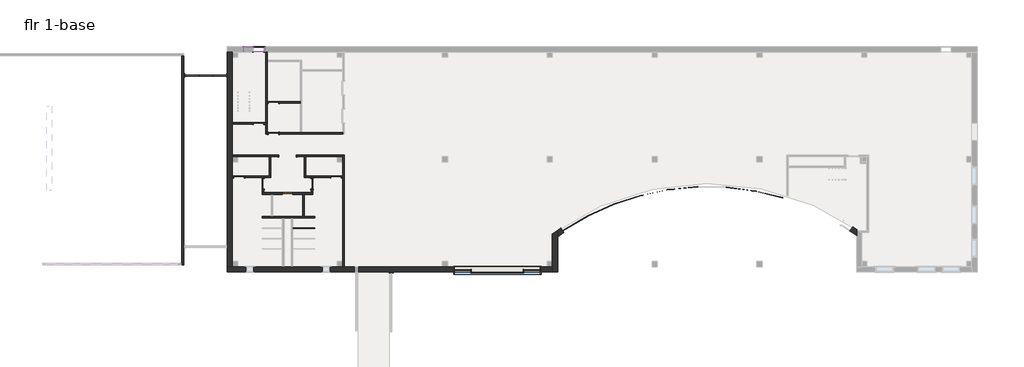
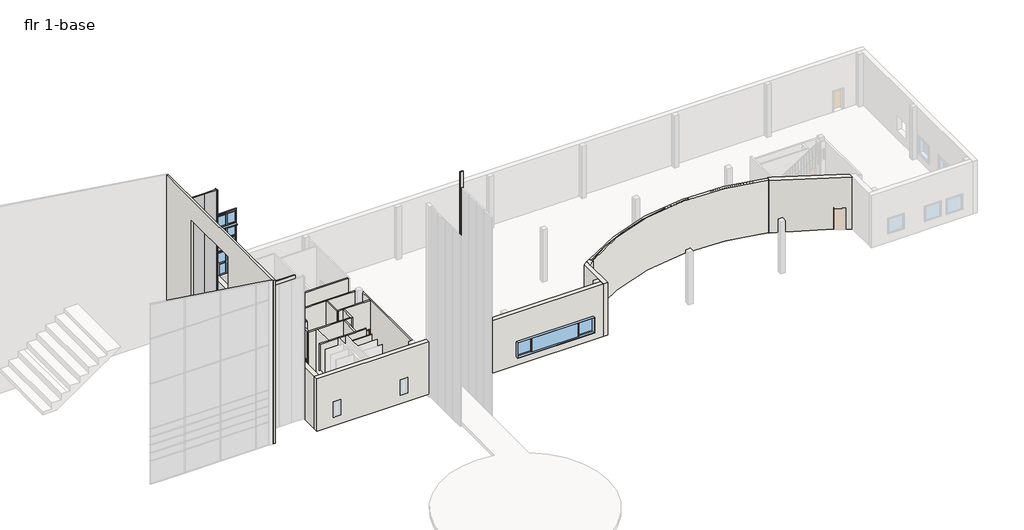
# One storey, part 4 of 5: 26 walls, 10 doors, 10 plates, 2 windows.
"""IFC4 building model written with IfcOpenShell, lengths in millimetres."""

from ifc_helpers import new_model, si_unit, point, frame, frame_2d, origin, origin_with_axes, place, context, project, spatial, polyline, circle_curve, trimmed, segment, composite_curve, outline, extrude, faceted_brep, transform, mapped, element, save
from ifc_brep_helpers import plane_surface, cylinder_surface, revolved_surface, advanced_brep
from components import door_df85aeb6, door_506e7aec, door_c6edcd30, door_9814c99b, glazed_panel_glazed_panel_a34ef34b, system_panel_system_panel_165921ea, fixed_25_x5_r1_fixed_25_x5_r1_81c53d64, window_5lite_268f9a0f

model = new_model("IFC4")

# Units and contexts
model_context = context("Model", 3, world=origin())
ifc_project = project(units=[si_unit("LENGTHUNIT", "METRE", prefix="MILLI")], contexts=[model_context])

# Site, building, storey
site = spatial("IfcSite", under=ifc_project)
building = spatial("IfcBuilding", under=site)
storey = spatial("IfcBuildingStorey", under=building, Name="flr 1-base", Elevation=0.0)

# Doors
placement = place(None, origin())
door_shape = door_df85aeb6(model_context)
element("IfcDoor", 1, ObjectType="Cased Opening : 60\" x 84\"", at=placement, inside=storey, context=model_context, shape_type="MappedRepresentation", body=[
    mapped(door_shape, transform((-110751.290902, 34756.8571029, 0.0), x_axis=(-1.0, 0.0, 0.0), y_axis=(0.0, -1.0, 0.0), z_axis=(0.0, 0.0, 1.0))),
])
door_2_shape = door_506e7aec(model_context)
element("IfcDoor", 2, ObjectType="Sgl Flush : 36\" x 84\"", at=placement, inside=storey, context=model_context, shape_type="MappedRepresentation", body=[
    mapped(door_2_shape, transform((-113265.890902, 44059.6071029, 0.0), x_axis=(1.0, 0.0, 0.0), y_axis=(0.0, 1.0, 0.0), z_axis=(0.0, 0.0, 1.0))),
])
door_3_shape = door_c6edcd30(model_context)
element("IfcDoor", 3, ObjectType="Sgl Flush : 36\" x 84\"", at=placement, inside=storey, context=model_context, shape_type="MappedRepresentation", body=[
    mapped(door_3_shape, transform((-113272.240902, 37588.9571029, 0.0), x_axis=(1.0, 0.0, 0.0), y_axis=(0.0, 1.0, 0.0), z_axis=(0.0, 0.0, 1.0))),
])
element("IfcDoor", 4, ObjectType="Sgl Flush : 36\" x 84\"", at=placement, inside=storey, context=model_context, shape_type="MappedRepresentation", body=[
    mapped(door_3_shape, transform((-112884.890902, 32318.4571029, 0.0), x_axis=(0.0, 1.0, 0.0), y_axis=(-1.0, 0.0, 0.0), z_axis=(0.0, 0.0, 1.0))),
])
element("IfcDoor", 5, ObjectType="Sgl Flush : 36\" x 84\"", at=placement, inside=storey, context=model_context, shape_type="MappedRepresentation", body=[
    mapped(door_3_shape, transform((-106515.840902, 32928.0571029, 0.0), x_axis=(1.0, 0.0, 0.0), y_axis=(0.0, 1.0, 0.0), z_axis=(0.0, 0.0, 1.0))),
])
element("IfcDoor", 6, ObjectType="Sgl Flush : 36\" x 84\"", at=placement, inside=storey, context=model_context, shape_type="MappedRepresentation", body=[
    mapped(door_3_shape, transform((-110751.290902, 31480.2571029, 0.0), x_axis=(1.0, 0.0, 0.0), y_axis=(0.0, 1.0, 0.0), z_axis=(0.0, 0.0, 1.0))),
])
door_4_shape = door_9814c99b(model_context)
element("IfcDoor", 7, ObjectType="Sgl Flush : 36\" x 84\"", at=placement, inside=storey, context=model_context, shape_type="MappedRepresentation", body=[
    mapped(door_4_shape, transform((-111970.490902, 36725.3571029, 0.0), x_axis=(-1.0, 0.0, 0.0), y_axis=(0.0, -1.0, 0.0), z_axis=(0.0, 0.0, 1.0))),
])
element("IfcDoor", 8, ObjectType="Sgl Flush : 36\" x 84\"", at=placement, inside=storey, context=model_context, shape_type="MappedRepresentation", body=[
    mapped(door_4_shape, transform((-111970.490902, 39417.7571029, 0.0), x_axis=(-1.0, 0.0, 0.0), y_axis=(0.0, -1.0, 0.0), z_axis=(0.0, 0.0, 1.0))),
])
element("IfcDoor", 9, ObjectType="Sgl Flush : 36\" x 84\"", at=placement, inside=storey, context=model_context, shape_type="MappedRepresentation", body=[
    mapped(door_4_shape, transform((-108617.690902, 32324.8071029, 0.0), x_axis=(0.0, 1.0, 0.0), y_axis=(-1.0, 0.0, 0.0), z_axis=(0.0, 0.0, 1.0))),
])
element("IfcDoor", 10, ObjectType="Sgl Flush : 36\" x 84\"", at=placement, inside=storey, context=model_context, shape_type="MappedRepresentation", body=[
    mapped(door_4_shape, transform((-114968.0703209, 32928.0571029, 0.0), x_axis=(-1.0, 0.0, 0.0), y_axis=(0.0, -1.0, 0.0), z_axis=(0.0, 0.0, 1.0))),
])

# Plates
glazed_panel_glazed_panel_shape = glazed_panel_glazed_panel_a34ef34b(model_context)
element("IfcPlate", 11, ObjectType="Glazed Panel : Glazed Panel", at=placement, inside=storey, context=model_context, shape_type="MappedRepresentation", body=[
    mapped(glazed_panel_glazed_panel_shape, transform((-68776.6241415, 31459.5980286, 0.0), x_axis=(-0.972196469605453, 0.23416665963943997, 0.0), y_axis=(-0.23416665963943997, -0.972196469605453, 0.0), z_axis=(0.0, 0.0, 1.0))),
])
element("IfcPlate", 12, ObjectType="Glazed Panel : Glazed Panel", at=placement, inside=storey, context=model_context, shape_type="MappedRepresentation", body=[
    mapped(glazed_panel_glazed_panel_shape, transform((-78724.5971167, 31617.1090647, 0.0), x_axis=(-0.9791226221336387, -0.20327048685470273, 0.0), y_axis=(0.20327048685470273, -0.9791226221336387, 0.0), z_axis=(0.0, 0.0, 1.0))),
])
element("IfcPlate", 13, ObjectType="Glazed Panel : Glazed Panel", at=placement, inside=storey, context=model_context, shape_type="MappedRepresentation", body=[
    mapped(glazed_panel_glazed_panel_shape, transform((-71241.8887951, 31911.3319638, 0.0), x_axis=(-0.992060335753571, 0.12576283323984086, 0.0), y_axis=(-0.12576283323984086, -0.992060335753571, 0.0), z_axis=(0.0, 0.0, 1.0))),
])
element("IfcPlate", 14, ObjectType="Glazed Panel : Glazed Panel", at=placement, inside=storey, context=model_context, shape_type="MappedRepresentation", body=[
    mapped(glazed_panel_glazed_panel_shape, transform((-76246.266777, 31990.568685, 0.0), x_axis=(-0.9955445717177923, -0.09429212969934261, 0.0), y_axis=(0.09429212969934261, -0.9955445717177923, 0.0), z_axis=(0.0, 0.0, 1.0))),
])
element("IfcPlate", 15, ObjectType="Glazed Panel : Glazed Panel", at=placement, inside=storey, context=model_context, shape_type="MappedRepresentation", body=[
    mapped(glazed_panel_glazed_panel_shape, transform((-83483.3975677, 30066.6589008, 0.0), x_axis=(-0.9109454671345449, -0.41252679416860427, 0.0), y_axis=(0.41252679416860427, -0.9109454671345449, 0.0), z_axis=(0.0, 0.0, 1.0))),
])
element("IfcPlate", 16, ObjectType="Glazed Panel : Glazed Panel", at=placement, inside=storey, context=model_context, shape_type="MappedRepresentation", body=[
    mapped(glazed_panel_glazed_panel_shape, transform((-85706.067466, 28908.5000673, 0.0), x_axis=(-0.8600183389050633, -0.5102631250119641, 0.0), y_axis=(0.5102631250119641, -0.8600183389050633, 0.0), z_axis=(0.0, 0.0, 1.0))),
])
element("IfcPlate", 17, ObjectType="Glazed Panel : Glazed Panel", at=placement, inside=storey, context=model_context, shape_type="MappedRepresentation", body=[
    mapped(glazed_panel_glazed_panel_shape, transform((-81146.7806305, 30973.1988334, 0.0), x_axis=(-0.9508082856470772, -0.3097799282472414, 0.0), y_axis=(0.3097799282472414, -0.9508082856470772, 0.0), z_axis=(0.0, 0.0, 1.0))),
])
system_panel_system_panel_shape = system_panel_system_panel_165921ea(model_context)
element("IfcPlate", 18, ObjectType="System Panel : System Panel", at=placement, inside=storey, context=model_context, shape_type="MappedRepresentation", body=[
    mapped(system_panel_system_panel_shape, transform((-116669.8070844, 41773.6071029, 0.0), x_axis=(-1.0, 0.0, 0.0), y_axis=(0.0, -1.0, 0.0), z_axis=(0.0, 0.0, 1.0))),
])
element("IfcPlate", 19, ObjectType="System Panel : System Panel", at=placement, inside=storey, context=model_context, shape_type="MappedRepresentation", body=[
    mapped(system_panel_system_panel_shape, transform((-119107.9541385, 41773.6071029, 0.0), x_axis=(-1.0, 0.0, 0.0), y_axis=(0.0, -1.0, 0.0), z_axis=(0.0, 0.0, 1.0))),
])
element("IfcPlate", 20, ObjectType="System Panel : System Panel", at=placement, inside=storey, context=model_context, shape_type="MappedRepresentation", body=[
    mapped(system_panel_system_panel_shape, transform((-117888.8806115, 41773.6071029, 0.0), x_axis=(-1.0, 0.0, 0.0), y_axis=(0.0, -1.0, 0.0), z_axis=(0.0, 0.0, 1.0))),
])

# Walls
element("IfcWall", 21, ObjectType="Curtain Wall 1", at=placement, inside=storey, context=model_context, shape_type="SweptSolid", body=[
    extrude(outline(composite_curve([segment(polyline([(-86700.5757583, 28141.5055478), (-86870.3123535, 28394.6705696)]), True, "CONTINUOUS"), segment(trimmed(circle_curve(frame_2d((-74101.9231483, 9350.4006647)), 22928.4970965), [point((-86870.3123535, 28394.6705696))], [point((-67512.65982, 31311.6753976))], False, "CARTESIAN"), True, "CONTINUOUS"), segment(polyline([(-67512.65982, 31311.6753976), (-67600.2541989, 31019.7331691)]), True, "CONTINUOUS"), segment(trimmed(circle_curve(frame_2d((-74101.9231483, 9350.4006647)), 22623.6970965), [point((-67600.2541989, 31019.7331691))], [point((-86700.5757583, 28141.5055478))], True, "CARTESIAN"), True, "CONTINUOUS")], self_intersect=False)), origin_with_axes(), (0.0, 0.0, 1.0), 5486.4),
])
element("IfcWall", 22, ObjectType="Generic - 8\"", at=placement, inside=storey, context=model_context, shape_type="Brep", body=[
    faceted_brep([(-119793.690902, 25238.2071029, -304.8), (-119793.690902, 43526.2071029, -304.8), (-119793.690902, 43526.2071029, 16771.9087089), (-119793.690902, 25238.2071029, 16771.9087089), (-119793.690902, 32967.6248096, 14630.4), (-119793.690902, 39232.8859146, 14630.4), (-119793.690902, 39232.8859146, 5181.6), (-119793.690902, 32967.6248096, 5181.6), (-119996.890902, 25238.2071029, -304.8), (-119996.890902, 25238.2071029, 16801.6826719), (-119996.890902, 25390.6071029, 16801.6826719), (-119996.890902, 43526.2071029, 16801.6826719), (-119996.890902, 43526.2071029, -304.8), (-119996.890902, 25390.6071029, -304.8), (-119996.890902, 32967.6248096, 14630.4), (-119996.890902, 32967.6248096, 5181.6), (-119996.890902, 39232.8859146, 5181.6), (-119996.890902, 39232.8859146, 14630.4)], [[[0, 1, 2, 3], [4, 5, 6, 7]], [[8, 9, 10, 11, 12, 13], [14, 15, 16, 17]], [[1, 0, 8, 13, 12]], [[5, 4, 14, 17]], [[6, 5, 17, 16]], [[7, 6, 16, 15]], [[4, 7, 15, 14]], [[0, 3, 9, 8]], [[2, 1, 12, 11]], [[3, 2, 11, 10, 9]]]),
])
element("IfcWall", 23, ObjectType="Interior - 5 1/2\" Partition (1-hr)", at=placement, inside=storey, context=model_context, shape_type="Brep", body=[
    faceted_brep([(-105810.990902, 25084.2196029, 0.0), (-105810.990902, 34826.7071029, 0.0), (-105810.990902, 34826.7071029, 5181.6), (-105810.990902, 25084.2196029, 5181.6), (-105950.690902, 25084.2196029, 0.0), (-105950.690902, 25084.2196029, 5181.6), (-105950.690902, 32858.2071029, 5181.6), (-105950.690902, 32997.9071029, 5181.6), (-105950.690902, 34687.0071029, 5181.6), (-105950.690902, 34826.7071029, 5181.6), (-105950.690902, 34826.7071029, 0.0), (-105950.690902, 34687.0071029, 0.0), (-105950.690902, 32997.9071029, 0.0), (-105950.690902, 32858.2071029, 0.0)], [[[0, 1, 2, 3]], [[4, 5, 6, 7, 8, 9, 10, 11, 12, 13]], [[1, 0, 4, 13, 12, 11, 10]], [[2, 1, 10, 9]], [[0, 3, 5, 4]], [[3, 2, 9, 8, 7, 6, 5]]]),
])
element("IfcWall", 24, ObjectType="Interior - 5 1/2\" Partition (1-hr)", at=placement, inside=storey, context=model_context, shape_type="Brep", body=[
    faceted_brep([(-111513.290902, 34826.7071029, 2133.6), (-111513.290902, 34826.7071029, 0.0), (-115553.8578209, 34826.7071029, 0.0), (-115553.8578209, 34826.7071029, 5181.6), (-105950.690902, 34826.7071029, 5181.6), (-105950.690902, 34826.7071029, 0.0), (-109989.290902, 34826.7071029, 0.0), (-109989.290902, 34826.7071029, 2133.6), (-115553.8578209, 34687.0071029, 0.0), (-112345.140902, 34687.0071029, 0.0), (-112205.440902, 34687.0071029, 0.0), (-111513.290902, 34687.0071029, 0.0), (-111513.290902, 34687.0071029, 2133.6), (-109989.290902, 34687.0071029, 2133.6), (-109989.290902, 34687.0071029, 0.0), (-109297.140902, 34687.0071029, 0.0), (-109157.440902, 34687.0071029, 0.0), (-105950.690902, 34687.0071029, 0.0), (-105950.690902, 34687.0071029, 5181.6), (-109157.440902, 34687.0071029, 5181.6), (-109297.140902, 34687.0071029, 5181.6), (-112205.440902, 34687.0071029, 5181.6), (-112345.140902, 34687.0071029, 5181.6), (-115553.8578209, 34687.0071029, 5181.6)], [[[0, 1, 2, 3, 4, 5, 6, 7]], [[8, 9, 10, 11, 12, 13, 14, 15, 16, 17, 18, 19, 20, 21, 22, 23]], [[2, 1, 11, 10, 9, 8]], [[6, 5, 17, 16, 15, 14]], [[5, 4, 18, 17]], [[3, 2, 8, 23]], [[4, 3, 23, 22, 21, 20, 19, 18]], [[12, 11, 1, 0]], [[13, 12, 0, 7]], [[14, 13, 7, 6]]]),
])
element("IfcWall", 25, ObjectType="Interior - 5 1/2\" Partition (1-hr)", at=placement, inside=storey, context=model_context, shape_type="Brep", body=[
    faceted_brep([(-112427.690902, 36795.2071029, 2133.6), (-112427.690902, 36795.2071029, 0.0), (-112510.240902, 36795.2071029, 0.0), (-112649.940902, 36795.2071029, 0.0), (-112649.940902, 36795.2071029, 5181.6), (-112510.240902, 36795.2071029, 5181.6), (-109633.690902, 36795.2071029, 5181.6), (-109493.990902, 36795.2071029, 5181.6), (-105950.690902, 36795.2071029, 5181.6), (-105950.690902, 36795.2071029, 0.0), (-109493.990902, 36795.2071029, 0.0), (-109633.690902, 36795.2071029, 0.0), (-111513.290902, 36795.2071029, 0.0), (-111513.290902, 36795.2071029, 2133.6), (-112649.940902, 36655.5071029, 0.0), (-112427.690902, 36655.5071029, 0.0), (-112427.690902, 36655.5071029, 2133.6), (-111513.290902, 36655.5071029, 2133.6), (-111513.290902, 36655.5071029, 0.0), (-105950.690902, 36655.5071029, 0.0), (-105950.690902, 36655.5071029, 5181.6), (-112649.940902, 36655.5071029, 5181.6)], [[[0, 1, 2, 3, 4, 5, 6, 7, 8, 9, 10, 11, 12, 13]], [[14, 15, 16, 17, 18, 19, 20, 21]], [[3, 2, 1, 15, 14]], [[12, 11, 10, 9, 19, 18]], [[4, 3, 14, 21]], [[9, 8, 20, 19]], [[8, 7, 6, 5, 4, 21, 20]], [[16, 15, 1, 0]], [[17, 16, 0, 13]], [[18, 17, 13, 12]]]),
])
element("IfcWall", 26, ObjectType="Interior - 5 1/2\" Partition (1-hr)", at=placement, inside=storey, context=model_context, shape_type="Brep", body=[
    faceted_brep([(-112510.240902, 36795.2071029, 0.0), (-112510.240902, 39347.9071029, 0.0), (-112510.240902, 39487.6071029, 0.0), (-112510.240902, 42980.1071029, 0.0), (-112510.240902, 43119.8071029, 0.0), (-112510.240902, 43832.5946029, 0.0), (-112510.240902, 43832.5946029, 5181.6), (-112510.240902, 43119.8071029, 5181.6), (-112510.240902, 42980.1071029, 5181.6), (-112510.240902, 39487.6071029, 5181.6), (-112510.240902, 39347.9071029, 5181.6), (-112510.240902, 36795.2071029, 5181.6), (-112649.940902, 36795.2071029, 0.0), (-112649.940902, 36795.2071029, 5181.6), (-112649.940902, 37519.1071029, 5181.6), (-112649.940902, 37658.8071029, 5181.6), (-112649.940902, 39436.8071029, 5181.6), (-112649.940902, 43119.8071029, 5181.6), (-112649.940902, 43832.5946029, 5181.6), (-112649.940902, 43832.5946029, 0.0), (-112649.940902, 37658.8071029, 0.0), (-112649.940902, 37519.1071029, 0.0)], [[[0, 1, 2, 3, 4, 5, 6, 7, 8, 9, 10, 11]], [[12, 13, 14, 15, 16, 17, 18, 19, 20, 21]], [[5, 4, 3, 2, 1, 0, 12, 21, 20, 19]], [[0, 11, 13, 12]], [[6, 5, 19, 18]], [[7, 6, 18, 17]], [[11, 10, 9, 8, 7, 17, 16, 15, 14, 13]]]),
])
element("IfcWall", 27, ObjectType="Interior - 5 1/2\" Partition (1-hr)", at=placement, inside=storey, context=model_context, shape_type="SweptSolid", body=[
    extrude(outline(polyline([(2133.6, -112815.040902), (0.0, -112815.040902), (0.0, -112649.940902), (5181.6, -112649.940902), (5181.6, -115553.8578209), (0.0, -115553.8578209), (0.0, -113729.440902), (2133.6, -113729.440902), (2133.6, -112815.040902)])), frame((0.0, 37519.1071029, 0.0), z_axis=(0.0, 1.0, 0.0), x_axis=(0.0, 0.0, 1.0)), (0.0, 0.0, 1.0), 139.7),
])
element("IfcWall", 28, ObjectType="Interior - 5 1/2\" Partition (1-hr)", at=placement, inside=storey, context=model_context, shape_type="SweptSolid", body=[
    extrude(outline(polyline([(0.0, -112510.240902), (0.0, -112427.690902), (2133.6, -112427.690902), (2133.6, -111513.290902), (0.0, -111513.290902), (0.0, -109633.690902), (5181.6, -109633.690902), (5181.6, -112510.240902), (0.0, -112510.240902)])), frame((0.0, 39347.9071029, 0.0), z_axis=(0.0, 1.0, 0.0), x_axis=(0.0, 0.0, 1.0)), (0.0, 0.0, 1.0), 139.7),
])
element("IfcWall", 29, ObjectType="Interior - 5 1/2\" Partition (1-hr)", at=placement, inside=storey, context=model_context, shape_type="Brep", body=[
    faceted_brep([(-109297.140902, 34687.0071029, 0.0), (-109297.140902, 32858.2071029, 0.0), (-109297.140902, 32858.2071029, 5181.6), (-109297.140902, 34687.0071029, 5181.6), (-109157.440902, 34687.0071029, 0.0), (-109157.440902, 34687.0071029, 5181.6), (-109157.440902, 32997.9071029, 5181.6), (-109157.440902, 32858.2071029, 5181.6), (-109157.440902, 32858.2071029, 0.0), (-109157.440902, 32997.9071029, 0.0)], [[[0, 1, 2, 3]], [[4, 5, 6, 7, 8, 9]], [[1, 0, 4, 9, 8]], [[2, 1, 8, 7]], [[0, 3, 5, 4]], [[3, 2, 7, 6, 5]]]),
])
element("IfcWall", 30, ObjectType="Interior - 5 1/2\" Partition (1-hr)", at=placement, inside=storey, context=model_context, shape_type="Brep", body=[
    faceted_brep([(-106058.640902, 32858.2071029, 2133.6), (-106058.640902, 32858.2071029, 0.0), (-105950.690902, 32858.2071029, 0.0), (-105950.690902, 32858.2071029, 5181.6), (-108547.840902, 32858.2071029, 5181.6), (-108687.540902, 32858.2071029, 5181.6), (-109157.440902, 32858.2071029, 5181.6), (-109157.440902, 32858.2071029, 0.0), (-108687.540902, 32858.2071029, 0.0), (-108547.840902, 32858.2071029, 0.0), (-106973.040902, 32858.2071029, 0.0), (-106973.040902, 32858.2071029, 2133.6), (-105950.690902, 32997.9071029, 0.0), (-106058.640902, 32997.9071029, 0.0), (-106058.640902, 32997.9071029, 2133.6), (-106973.040902, 32997.9071029, 2133.6), (-106973.040902, 32997.9071029, 0.0), (-109157.440902, 32997.9071029, 0.0), (-109157.440902, 32997.9071029, 5181.6), (-105950.690902, 32997.9071029, 5181.6)], [[[0, 1, 2, 3, 4, 5, 6, 7, 8, 9, 10, 11]], [[12, 13, 14, 15, 16, 17, 18, 19]], [[2, 1, 13, 12]], [[10, 9, 8, 7, 17, 16]], [[7, 6, 18, 17]], [[3, 2, 12, 19]], [[6, 5, 4, 3, 19, 18]], [[14, 13, 1, 0]], [[15, 14, 0, 11]], [[16, 15, 11, 10]]]),
])
element("IfcWall", 31, ObjectType="Interior - 5 1/2\" Partition (1-hr)", at=placement, inside=storey, context=model_context, shape_type="Brep", body=[
    faceted_brep([(-115553.8578209, 32858.2071029, 0.0), (-115425.2703209, 32858.2071029, 0.0), (-115425.2703209, 32858.2071029, 2133.6), (-114510.8703209, 32858.2071029, 2133.6), (-114510.8703209, 32858.2071029, 0.0), (-112954.740902, 32858.2071029, 0.0), (-112815.040902, 32858.2071029, 0.0), (-112205.440902, 32858.2071029, 0.0), (-112205.440902, 32858.2071029, 5181.6), (-112815.040902, 32858.2071029, 5181.6), (-112954.740902, 32858.2071029, 5181.6), (-115553.8578209, 32858.2071029, 5181.6), (-115425.2703209, 32997.9071029, 2133.6), (-115425.2703209, 32997.9071029, 0.0), (-115553.8578209, 32997.9071029, 0.0), (-115553.8578209, 32997.9071029, 5181.6), (-112345.140902, 32997.9071029, 5181.6), (-112205.440902, 32997.9071029, 5181.6), (-112205.440902, 32997.9071029, 0.0), (-112345.140902, 32997.9071029, 0.0), (-114510.8703209, 32997.9071029, 0.0), (-114510.8703209, 32997.9071029, 2133.6)], [[[0, 1, 2, 3, 4, 5, 6, 7, 8, 9, 10, 11]], [[12, 13, 14, 15, 16, 17, 18, 19, 20, 21]], [[14, 13, 1, 0]], [[20, 19, 18, 7, 6, 5, 4]], [[8, 7, 18, 17]], [[0, 11, 15, 14]], [[11, 10, 9, 8, 17, 16, 15]], [[2, 1, 13, 12]], [[3, 2, 12, 21]], [[4, 3, 21, 20]]]),
])
element("IfcWall", 32, ObjectType="Interior - 5 1/2\" Partition (1-hr)", at=placement, inside=storey, context=model_context, shape_type="SweptSolid", body=[
    extrude(outline(polyline([(-112205.440902, 34687.0071029), (-112205.440902, 32997.9071029), (-112345.140902, 32997.9071029), (-112345.140902, 34687.0071029), (-112205.440902, 34687.0071029)])), origin_with_axes(), (0.0, 0.0, 1.0), 5181.6),
])
element("IfcWall", 33, ObjectType="Interior - 5 1/2\" Partition (1-hr)", at=placement, inside=storey, context=model_context, shape_type="Brep", body=[
    faceted_brep([(-108687.540902, 32858.2071029, 0.0), (-108687.540902, 32782.0071029, 0.0), (-108687.540902, 32782.0071029, 2133.6), (-108687.540902, 31867.6071029, 2133.6), (-108687.540902, 31867.6071029, 0.0), (-108687.540902, 31550.1071029, 0.0), (-108687.540902, 31410.4071029, 0.0), (-108687.540902, 31410.4071029, 5181.6), (-108687.540902, 31550.1071029, 5181.6), (-108687.540902, 32858.2071029, 5181.6), (-108547.840902, 32782.0071029, 2133.6), (-108547.840902, 32782.0071029, 0.0), (-108547.840902, 32858.2071029, 0.0), (-108547.840902, 32858.2071029, 5181.6), (-108547.840902, 31410.4071029, 5181.6), (-108547.840902, 31410.4071029, 0.0), (-108547.840902, 31867.6071029, 0.0), (-108547.840902, 31867.6071029, 2133.6)], [[[0, 1, 2, 3, 4, 5, 6, 7, 8, 9]], [[10, 11, 12, 13, 14, 15, 16, 17]], [[12, 11, 1, 0]], [[16, 15, 6, 5, 4]], [[7, 6, 15, 14]], [[0, 9, 13, 12]], [[9, 8, 7, 14, 13]], [[2, 1, 11, 10]], [[3, 2, 10, 17]], [[4, 3, 17, 16]]]),
])
element("IfcWall", 34, ObjectType="Interior - 5 1/2\" Partition (1-hr)", at=placement, inside=storey, context=model_context, shape_type="Brep", body=[
    faceted_brep([(-108687.540902, 31550.1071029, 0.0), (-110294.090902, 31550.1071029, 0.0), (-110294.090902, 31550.1071029, 2133.6), (-111208.490902, 31550.1071029, 2133.6), (-111208.490902, 31550.1071029, 0.0), (-112815.040902, 31550.1071029, 0.0), (-112954.740902, 31550.1071029, 0.0), (-112954.740902, 31550.1071029, 5181.6), (-112815.040902, 31550.1071029, 5181.6), (-108687.540902, 31550.1071029, 5181.6), (-110294.090902, 31410.4071029, 2133.6), (-110294.090902, 31410.4071029, 0.0), (-109449.540902, 31410.4071029, 0.0), (-109309.840902, 31410.4071029, 0.0), (-108687.540902, 31410.4071029, 0.0), (-108687.540902, 31410.4071029, 5181.6), (-109309.840902, 31410.4071029, 5181.6), (-109449.540902, 31410.4071029, 5181.6), (-112053.040902, 31410.4071029, 5181.6), (-112192.740902, 31410.4071029, 5181.6), (-112954.740902, 31410.4071029, 5181.6), (-112954.740902, 31410.4071029, 0.0), (-112192.740902, 31410.4071029, 0.0), (-112053.040902, 31410.4071029, 0.0), (-111208.490902, 31410.4071029, 0.0), (-111208.490902, 31410.4071029, 2133.6)], [[[0, 1, 2, 3, 4, 5, 6, 7, 8, 9]], [[10, 11, 12, 13, 14, 15, 16, 17, 18, 19, 20, 21, 22, 23, 24, 25]], [[14, 13, 12, 11, 1, 0]], [[24, 23, 22, 21, 6, 5, 4]], [[7, 6, 21, 20]], [[0, 9, 15, 14]], [[9, 8, 7, 20, 19, 18, 17, 16, 15]], [[2, 1, 11, 10]], [[3, 2, 10, 25]], [[4, 3, 25, 24]]]),
])
element("IfcWall", 35, ObjectType="Interior - 5 1/2\" Partition (1-hr)", at=placement, inside=storey, context=model_context, shape_type="Brep", body=[
    faceted_brep([(-112961.090902, 29351.4196029, 0.0), (-111202.140902, 29351.4196029, 0.0), (-111062.440902, 29351.4196029, 0.0), (-110440.140902, 29351.4196029, 0.0), (-110300.440902, 29351.4196029, 0.0), (-108389.090902, 29351.4196029, 0.0), (-108389.090902, 29351.4196029, 5181.6), (-110300.440902, 29351.4196029, 5181.6), (-110440.140902, 29351.4196029, 5181.6), (-111062.440902, 29351.4196029, 5181.6), (-111202.140902, 29351.4196029, 5181.6), (-112961.090902, 29351.4196029, 5181.6), (-112961.090902, 29491.1196029, 0.0), (-112961.090902, 29491.1196029, 5181.6), (-112192.740902, 29491.1196029, 5181.6), (-112053.040902, 29491.1196029, 5181.6), (-109449.540902, 29491.1196029, 5181.6), (-109309.840902, 29491.1196029, 5181.6), (-108389.090902, 29491.1196029, 5181.6), (-108389.090902, 29491.1196029, 0.0), (-109309.840902, 29491.1196029, 0.0), (-109449.540902, 29491.1196029, 0.0), (-112053.040902, 29491.1196029, 0.0), (-112192.740902, 29491.1196029, 0.0)], [[[0, 1, 2, 3, 4, 5, 6, 7, 8, 9, 10, 11]], [[12, 13, 14, 15, 16, 17, 18, 19, 20, 21, 22, 23]], [[5, 4, 3, 2, 1, 0, 12, 23, 22, 21, 20, 19]], [[6, 5, 19, 18]], [[0, 11, 13, 12]], [[11, 10, 9, 8, 7, 6, 18, 17, 16, 15, 14, 13]]]),
])
element("IfcWall", 36, ObjectType="Interior - 5 1/2\" Partition (1-hr)", at=placement, inside=storey, context=model_context, shape_type="SweptSolid", body=[
    extrude(outline(polyline([(-109309.840902, 31410.4071029), (-109309.840902, 29491.1196029), (-109449.540902, 29491.1196029), (-109449.540902, 31410.4071029), (-109309.840902, 31410.4071029)])), origin_with_axes(), (0.0, 0.0, 1.0), 5181.6),
])
element("IfcWall", 37, ObjectType="Interior - 5 1/2\" Partition (1-hr)", at=placement, inside=storey, context=model_context, shape_type="SweptSolid", body=[
    extrude(outline(polyline([(32858.2071029, 0.0), (32775.6571029, 0.0), (32775.6571029, 2133.6), (31861.2571029, 2133.6), (31861.2571029, 0.0), (31550.1071029, 0.0), (31550.1071029, 5181.6), (32858.2071029, 5181.6), (32858.2071029, 0.0)])), frame((-112954.740902, 0.0, 0.0), z_axis=(1.0, 0.0, 0.0), x_axis=(0.0, 1.0, 0.0)), (0.0, 0.0, 1.0), 139.7),
])
element("IfcWall", 38, ObjectType="a_Mtl panel on Mtl stud", at=placement, inside=storey, context=model_context, shape_type="SweptSolid", body=[
    extrude(outline(polyline([(-116060.2703209, 41929.1821029), (-116007.8828209, 41929.1821029), (-116007.8828209, 41618.0321029), (-116060.2703209, 41618.0321029), (-116060.2703209, 41929.1821029)])), origin_with_axes(), (0.0, 0.0, 1.0), 14935.2),
])
element("IfcWall", 39, ObjectType="a_Mtl panel on Mtl stud", at=placement, inside=storey, context=model_context, shape_type="Brep", body=[
    faceted_brep([(-101553.6574925, 24552.4071029, -304.8), (-101553.6574925, 24630.1946029, -304.8), (-101553.6574925, 24630.1946029, 19659.6), (-101553.6574925, 24630.1946029, 22250.4), (-101553.6574925, 24552.4071029, 22250.4), (-101553.6574925, 24552.4071029, 20574.0), (-101864.8074925, 24552.4071029, -304.8), (-101864.8074925, 24552.4071029, 20574.0), (-101864.8074925, 24552.4071029, 22250.4), (-101864.8074925, 24630.1946029, 22250.4), (-101864.8074925, 24630.1946029, 19659.6), (-101864.8074925, 24630.1946029, -304.8)], [[[0, 1, 2, 3, 4, 5]], [[6, 7, 8, 9, 10, 11]], [[1, 0, 6, 11]], [[4, 3, 9, 8]], [[0, 5, 4, 8, 7, 6]], [[3, 2, 1, 11, 10, 9]]]),
])
element("IfcWall", 40, ObjectType="a_Mtl panel on Mtl stud", at=placement, inside=storey, context=model_context, shape_type="SweptSolid", body=[
    extrude(outline(polyline([(-119793.690902, 41929.1821029), (-119717.490902, 41929.1821029), (-119717.490902, 41618.0321029), (-119793.690902, 41618.0321029), (-119793.690902, 41929.1821029)])), origin_with_axes(), (0.0, 0.0, 1.0), 14935.2),
])
element("IfcWall", 41, ObjectType="a_Stone on CMU", at=placement, inside=storey, context=model_context, shape_type="AdvancedBrep", body=[
    advanced_brep(
    [(-87661.103402, 27932.4264412, 0.0), (-87661.103402, 25084.2196029, 0.0), (-87661.103402, 24630.1946029, 0.0), (-87661.103402, 24630.1946029, 5486.4), (-87661.103402, 25084.2196029, 5486.4), (-87661.103402, 27932.4264412, 5486.4), (-87207.078402, 28255.3724152, 0.0), (-87207.078402, 28255.3724152, 5486.4), (-87207.078402, 27700.2268742, 5486.4), (-87207.078402, 24630.1946029, 5486.4), (-87207.078402, 24630.1946029, 0.0), (-87207.078402, 27700.2268742, 0.0)],
    [
        (0, 1),
        (1, 2),
        (2, 3),
        (3, 4),
        (4, 5),
        (5, 0),
        (6, 7),
        (7, 8),
        (8, 9),
        (9, 10),
        (10, 11),
        (11, 6),
        (0, 6, circle_curve(frame((-74101.9231483, 9350.4006647, 0.0), z_axis=(0.0, 0.0, -1.0), x_axis=(1.0, 0.0, 0.0)), 23003.1095965)),
        (10, 2),
        (3, 9),
        (7, 5, circle_curve(frame((-74101.9231483, 9350.4006647, 5486.4), z_axis=(0.0, 0.0, 1.0), x_axis=(1.0, 0.0, 0.0)), 23003.1095965)),
    ],
    [
        plane_surface(frame((-87661.103402, 29886.4071029, 0.0), z_axis=(-1.0, 0.0, 0.0), x_axis=(0.0, -1.0, 0.0))),
        plane_surface(frame((-87207.078402, 29886.4071029, 0.0), z_axis=(1.0, 0.0, 0.0), x_axis=(0.0, 1.0, 0.0))),
        plane_surface(frame((-87661.103402, 27816.6916279, 0.0), z_axis=(0.0, 0.0, -1.0), x_axis=(1.0, 0.0, 0.0))),
        plane_surface(frame((-87661.103402, 24857.2071029, 5486.4), z_axis=(0.0, 0.0, 1.0), x_axis=(1.0, 0.0, 0.0))),
        plane_surface(frame((-87891.290902, 24630.1946029, 0.0), z_axis=(0.0, -1.0, 0.0), x_axis=(1.0, 0.0, 0.0))),
        cylinder_surface(frame((-74101.9231483, 9350.4006647, 0.0), z_axis=(0.0, 0.0, 1.0), x_axis=(1.0, 0.0, 0.0)), 23003.1095965),
    ],
    [
        (0, [[1, 2, 3, 4, 5, 6]]),
        (1, [[7, 8, 9, 10, 11, 12]]),
        (2, [[-2, -1, 13, -12, -11, 14]]),
        (3, [[-5, -4, 15, -9, -8, 16]]),
        (4, [[-3, -14, -10, -15]]),
        (5, [[-6, -16, -7, -13]]),
    ],
),
])
element("IfcWall", 42, ObjectType="a_Stone on CMU", at=placement, inside=storey, context=model_context, shape_type="Brep", body=[
    faceted_brep([(-87661.103402, 25084.2196029, 0.0), (-105810.990902, 25084.2196029, 0.0), (-105950.690902, 25084.2196029, 0.0), (-110300.440902, 25084.2196029, 0.0), (-110440.140902, 25084.2196029, 0.0), (-111062.440902, 25084.2196029, 0.0), (-111202.140902, 25084.2196029, 0.0), (-115553.8578209, 25084.2196029, 0.0), (-116007.8828209, 25084.2196029, 0.0), (-116007.8828209, 25084.2196029, 5486.4), (-115553.8578209, 25084.2196029, 5486.4), (-87661.103402, 25084.2196029, 5486.4), (-107703.290902, 25084.2196029, 2438.4), (-107703.290902, 25084.2196029, 914.4), (-107093.690902, 25084.2196029, 914.4), (-107093.690902, 25084.2196029, 2438.4), (-114339.040902, 25084.2196029, 2438.4), (-114339.040902, 25084.2196029, 914.4), (-113729.440902, 25084.2196029, 914.4), (-113729.440902, 25084.2196029, 2438.4), (-96273.290902, 25084.2196029, 2438.4), (-96273.290902, 25084.2196029, 914.4), (-88653.290902, 25084.2196029, 914.4), (-88653.290902, 25084.2196029, 2438.4), (-87661.103402, 24630.1946029, 0.0), (-87661.103402, 24630.1946029, 5486.4), (-116007.8828209, 24630.1946029, 5486.4), (-116007.8828209, 24630.1946029, 0.0), (-107703.290902, 24630.1946029, 2438.4), (-107093.690902, 24630.1946029, 2438.4), (-107093.690902, 24630.1946029, 914.4), (-107703.290902, 24630.1946029, 914.4), (-114339.040902, 24630.1946029, 2438.4), (-113729.440902, 24630.1946029, 2438.4), (-113729.440902, 24630.1946029, 914.4), (-114339.040902, 24630.1946029, 914.4), (-96273.290902, 24630.1946029, 2438.4), (-88653.290902, 24630.1946029, 2438.4), (-88653.290902, 24630.1946029, 914.4), (-96273.290902, 24630.1946029, 914.4)], [[[0, 1, 2, 3, 4, 5, 6, 7, 8, 9, 10, 11], [12, 13, 14, 15], [16, 17, 18, 19], [20, 21, 22, 23]], [[24, 25, 26, 27], [28, 29, 30, 31], [32, 33, 34, 35], [36, 37, 38, 39]], [[8, 7, 6, 5, 4, 3, 2, 1, 0, 24, 27]], [[11, 10, 9, 26, 25]], [[9, 8, 27, 26]], [[0, 11, 25, 24]], [[13, 12, 28, 31]], [[14, 13, 31, 30]], [[15, 14, 30, 29]], [[12, 15, 29, 28]], [[17, 16, 32, 35]], [[18, 17, 35, 34]], [[19, 18, 34, 33]], [[16, 19, 33, 32]], [[21, 20, 36, 39]], [[22, 21, 39, 38]], [[23, 22, 38, 37]], [[20, 23, 37, 36]]]),
])
element("IfcWall", 43, ObjectType="a_Stone on CMU", at=placement, inside=storey, context=model_context, shape_type="Brep", body=[
    faceted_brep([(-115553.8578209, 25084.2196029, 0.0), (-115553.8578209, 32858.2071029, 0.0), (-115553.8578209, 32997.9071029, 0.0), (-115553.8578209, 34687.0071029, 0.0), (-115553.8578209, 34826.7071029, 0.0), (-115553.8578209, 37519.1071029, 0.0), (-115553.8578209, 37658.8071029, 0.0), (-115553.8578209, 43832.5946029, 0.0), (-115553.8578209, 43832.5946029, 5486.4), (-115553.8578209, 25084.2196029, 5486.4), (-116007.8828209, 25084.2196029, 0.0), (-116007.8828209, 25084.2196029, 5486.4), (-116007.8828209, 43832.5946029, 5486.4), (-116007.8828209, 43832.5946029, 0.0)], [[[0, 1, 2, 3, 4, 5, 6, 7, 8, 9]], [[10, 11, 12, 13]], [[7, 6, 5, 4, 3, 2, 1, 0, 10, 13]], [[9, 8, 12, 11]], [[0, 9, 11, 10]], [[8, 7, 13, 12]]]),
])
element("IfcWall", 44, ObjectType="a_Stone on CMU", at=placement, inside=storey, context=model_context, shape_type="AdvancedBrep", body=[
    advanced_brep(
    [(-67621.6965729, 30948.2681444, 5486.4), (-61143.503402, 27804.1421233, 5486.4), (-61143.503402, 28356.2526263, 5486.4), (-67105.7856484, 31263.8009301, 5486.4), (-67245.4856484, 31307.9122705, 5486.4), (-67491.217446, 31383.1404223, 5486.4), (-61143.503402, 27804.1421233, 0.0), (-61718.0919464, 28194.5493826, 0.0), (-61476.4396757, 28579.0308341, 0.0), (-61143.503402, 28356.2526263, 0.0), (-62492.27617, 28681.135601, 0.0), (-67621.6965729, 30948.2681444, 0.0), (-67491.217446, 31383.1404223, 0.0), (-67245.4856484, 31307.9122705, 0.0), (-67105.7856484, 31263.8009301, 0.0), (-62250.6238993, 29065.6170525, 0.0), (-61718.0919464, 28194.5493826, 2133.6), (-62492.27617, 28681.135601, 2133.6), (-61476.4396757, 28579.0308341, 2133.6), (-62250.6238993, 29065.6170525, 2133.6)],
    [
        (0, 1, circle_curve(frame((-74101.9231483, 9350.4006647, 5486.4), z_axis=(0.0, 0.0, -1.0), x_axis=(1.0, 0.0, 0.0)), 22549.0845965)),
        (1, 2),
        (2, 3, circle_curve(frame((-74101.9231483, 9350.4006647, 5486.4), z_axis=(0.0, 0.0, 1.0), x_axis=(1.0, 0.0, 0.0)), 23003.1095965)),
        (3, 4, circle_curve(frame((-74101.9231483, 9350.4006647, 5486.4), z_axis=(0.0, 0.0, 1.0), x_axis=(1.0, 0.0, 0.0)), 23003.1095965)),
        (4, 5, circle_curve(frame((-74101.9231483, 9350.4006647, 5486.4), z_axis=(0.0, 0.0, 1.0), x_axis=(1.0, 0.0, 0.0)), 23003.1095965)),
        (5, 0),
        (6, 7, circle_curve(frame((-74101.9231483, 9350.4006647, 0.0), z_axis=(0.0, 0.0, 1.0), x_axis=(1.0, 0.0, 0.0)), 22549.0845965)),
        (7, 8),
        (8, 9, circle_curve(frame((-74101.9231483, 9350.4006647, 0.0), z_axis=(0.0, 0.0, -1.0), x_axis=(1.0, 0.0, 0.0)), 23003.1095965)),
        (9, 6),
        (10, 11, circle_curve(frame((-74101.9231483, 9350.4006647, 0.0), z_axis=(0.0, 0.0, 1.0), x_axis=(1.0, 0.0, 0.0)), 22549.0845965)),
        (11, 12),
        (12, 13, circle_curve(frame((-74101.9231483, 9350.4006647, 0.0), z_axis=(0.0, 0.0, -1.0), x_axis=(1.0, 0.0, 0.0)), 23003.1095965)),
        (13, 14, circle_curve(frame((-74101.9231483, 9350.4006647, 0.0), z_axis=(0.0, 0.0, -1.0), x_axis=(1.0, 0.0, 0.0)), 23003.1095965)),
        (14, 15, circle_curve(frame((-74101.9231483, 9350.4006647, 0.0), z_axis=(0.0, 0.0, -1.0), x_axis=(1.0, 0.0, 0.0)), 23003.1095965)),
        (15, 10),
        (16, 7),
        (6, 1),
        (0, 11),
        (10, 17),
        (17, 16, circle_curve(frame((-74101.9231483, 9350.4006647, 2133.6), z_axis=(0.0, 0.0, -1.0), x_axis=(1.0, 0.0, 0.0)), 22549.0845965)),
        (8, 18),
        (18, 19, circle_curve(frame((-74101.9231483, 9350.4006647, 2133.6), z_axis=(0.0, 0.0, 1.0), x_axis=(1.0, 0.0, 0.0)), 23003.1095965)),
        (19, 15),
        (12, 5),
        (2, 9),
        (16, 18),
        (17, 19),
    ],
    [
        plane_surface(frame((-51552.8385518, 9350.4006647, 5486.4), z_axis=(0.0, 0.0, 1.0), x_axis=(0.0, -1.0, 0.0))),
        plane_surface(frame((-51552.8385518, 9350.4006647, 0.0), z_axis=(0.0, 0.0, -1.0), x_axis=(0.0, 1.0, 0.0))),
        revolved_surface(polyline([(-51552.8385518, 9350.4006647, 0.0), (-51552.8385518, 9350.4006647, 5486.4)]), (-74101.9231483, 9350.4006647, 0.0), (0.0, 0.0, -1.0)),
        cylinder_surface(frame((-74101.9231483, 9350.4006647, 0.0), z_axis=(0.0, 0.0, 1.0), x_axis=(1.0, 0.0, 0.0)), 23003.1095965),
        plane_surface(frame((-67491.217446, 31383.1404223, 5486.4), z_axis=(-0.9578157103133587, 0.2873831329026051, 0.0), x_axis=(0.0, 0.0, -1.0))),
        plane_surface(frame((-61143.503402, 25314.4071029, 0.0), z_axis=(1.0, 0.0, 0.0), x_axis=(0.0, -1.0, 0.0))),
        plane_surface(frame((-61476.4396757, 28579.0308341, 0.0), z_axis=(-0.8466581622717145, 0.5321371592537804, 0.0), x_axis=(-0.5321371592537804, -0.8466581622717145, 0.0))),
        plane_surface(frame((-61476.4396757, 28579.0308341, 2133.6), z_axis=(0.0, 0.0, -1.0000000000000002), x_axis=(-0.5321371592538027, -0.8466581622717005, 0.0))),
        plane_surface(frame((-62250.6238993, 29065.6170525, 2133.6), z_axis=(0.8466581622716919, -0.5321371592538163, 0.0), x_axis=(-0.5321371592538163, -0.8466581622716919, 0.0))),
    ],
    [
        (0, [[1, 2, 3, 4, 5, 6]]),
        (1, [[7, 8, 9, 10]]),
        (1, [[11, 12, 13, 14, 15, 16]]),
        (2, [[17, -7, 18, -1, 19, -11, 20, 21]]),
        (3, [[-9, 22, 23, 24, -15, -14, -13, 25, -5, -4, -3, 26]]),
        (4, [[-6, -25, -12, -19]]),
        (5, [[-2, -18, -10, -26]]),
        (6, [[-22, -8, -17, 27]]),
        (7, [[-23, -27, -21, 28]]),
        (8, [[-24, -28, -20, -16]]),
    ],
),
])
element("IfcWall", 45, ObjectType="a_Stone on CMU", at=placement, inside=storey, context=model_context, shape_type="SweptSolid", body=[
    extrude(outline(composite_curve([segment(polyline([(-87207.078402, 27700.2268742), (-87207.078402, 28255.3724152)]), True, "CONTINUOUS"), segment(trimmed(circle_curve(frame_2d((-74101.9231483, 9350.4006647)), 23003.1095965), [point((-87207.078402, 28255.3724152))], [point((-86911.8624576, 28456.6432572))], False, "CARTESIAN"), True, "CONTINUOUS"), segment(polyline([(-86911.8624576, 28456.6432572), (-86659.0256543, 28079.5328602)]), True, "CONTINUOUS"), segment(trimmed(circle_curve(frame_2d((-74101.9231483, 9350.4006647)), 22549.0845965), [point((-86659.0256543, 28079.5328602))], [point((-87207.078402, 27700.2268742))], True, "CARTESIAN"), True, "CONTINUOUS")], self_intersect=False)), origin_with_axes(), (0.0, 0.0, 1.0), 5486.4),
])
element("IfcWall", 46, ObjectType="toilet partition - 1\"", at=placement, inside=storey, context=model_context, shape_type="SweptSolid", body=[
    extrude(outline(polyline([(-108389.090902, 28424.3196029), (-110300.440902, 28424.3196029), (-110300.440902, 28449.7196029), (-108389.090902, 28449.7196029), (-108389.090902, 28424.3196029)])), origin_with_axes(), (0.0, 0.0, 1.0), 5181.6),
])

# Windows
fixed_25_x5_r1_fixed_25_x5_r1_shape = fixed_25_x5_r1_fixed_25_x5_r1_81c53d64(model_context)
element("IfcWindow", 47, ObjectType="Fixed 25'x5'-r1 : Fixed 25'x5'-r1", at=placement, inside=storey, context=model_context, shape_type="MappedRepresentation", body=[
    mapped(fixed_25_x5_r1_fixed_25_x5_r1_shape, transform((-92717.290902, 24857.2071029, 0.0), x_axis=(-1.0, 0.0, 0.0), y_axis=(0.0, -1.0, 0.0), z_axis=(0.0, 0.0, 1.0))),
])
window_5lite_shape = window_5lite_268f9a0f(model_context)
element("IfcWindow", 48, ObjectType="window-5lite : 20'-6\" x 4'v x 6'to2'-4\"h", at=placement, inside=storey, context=model_context, shape_type="MappedRepresentation", body=[
    mapped(window_5lite_shape, transform((-113838.270289, 44059.6071029, 3298.7648235), x_axis=(1.0, 0.0, 0.0), y_axis=(0.0, 1.0, 0.0), z_axis=(0.0, 0.0, 1.0))),
])

save(model, "model.ifc")
